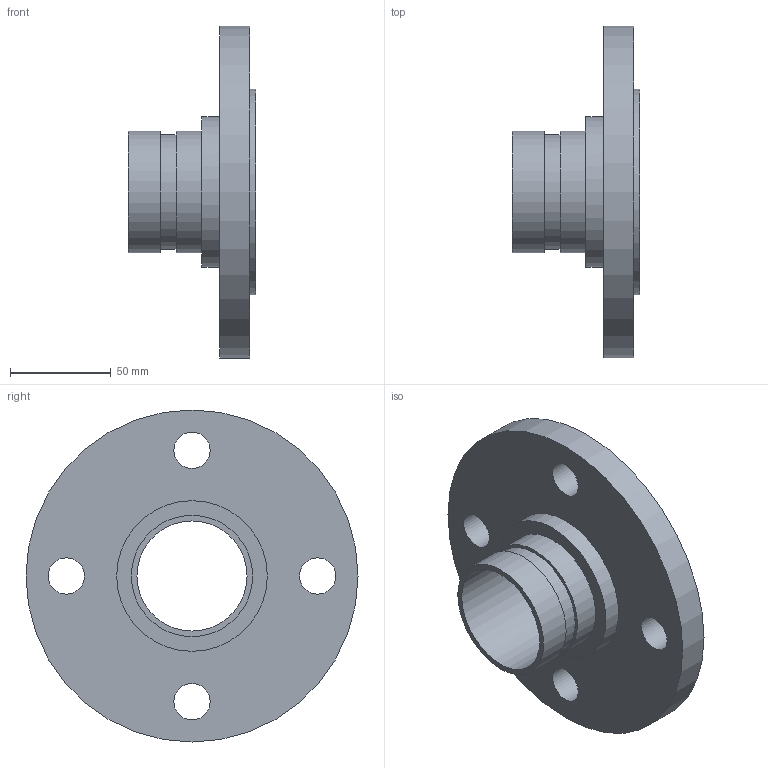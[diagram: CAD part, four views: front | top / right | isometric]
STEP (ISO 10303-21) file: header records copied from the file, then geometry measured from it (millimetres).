
FILE_DESCRIPTION(/* description */ ('VIC FLANGE ADAPTER STYLE 441N','CAx-IF Rec.Pracs.---Representation and Presentation of Product Manufacturing Information (PMI)---4.0---2014-10-13'),/* implementation_level */ '2;1');
FILE_NAME(/* name */ 'C:\Users\kkamble\AppData\Roaming\Autodesk\ApplicationPlugins\Back Up\Victaulic_SS-OGS_Flanged Adapter Nipple_PN10_Style 441N (OGSxFLG)\Victaulic_SS-OGS_Flanged Adapter Nipple_PN10_Style 441N (OGSxFLG)_2 (50).stp',/* time_stamp */ '2020-08-27T09:31:35+05:00',/* author */ ('jbrannon'),/* organization */ ('Victaulic'),/* preprocessor_version */ 'ST-DEVELOPER v17.2',/* originating_system */ 'Autodesk Inventor 2019',/* authorisation */ '');
FILE_SCHEMA (('AP242_MANAGED_MODEL_BASED_3D_ENGINEERING_MIM_LF { 1 0 10303 442 1 1 4 }'));
Length unit declared in the file: inch
Products named in the file (1): 441N-02.0
Bounding box: 63.5 x 165.1 x 165.1 mm (x, y, z)
Volume: 322182.3 mm3; surface area: 68665.8 mm2
Topology: 1 solids, 1 shells, 18 faces, 47 edges, 36 vertices
Faces by surface type: cylinder 11, plane 7
Full cylindrical faces by diameter (mm): 18.034 x4, 54.788 x1, 57.15 x1, 60.325 x2, 74.93 x1, 102.108 x1, 165.1 x1
Entity records: 769 total; most frequent: DIRECTION 147, CARTESIAN_POINT 119, ORIENTED_EDGE 94, AXIS2_PLACEMENT_3D 68, EDGE_CURVE 47, CIRCLE 36, VERTEX_POINT 36, EDGE_LOOP 33
